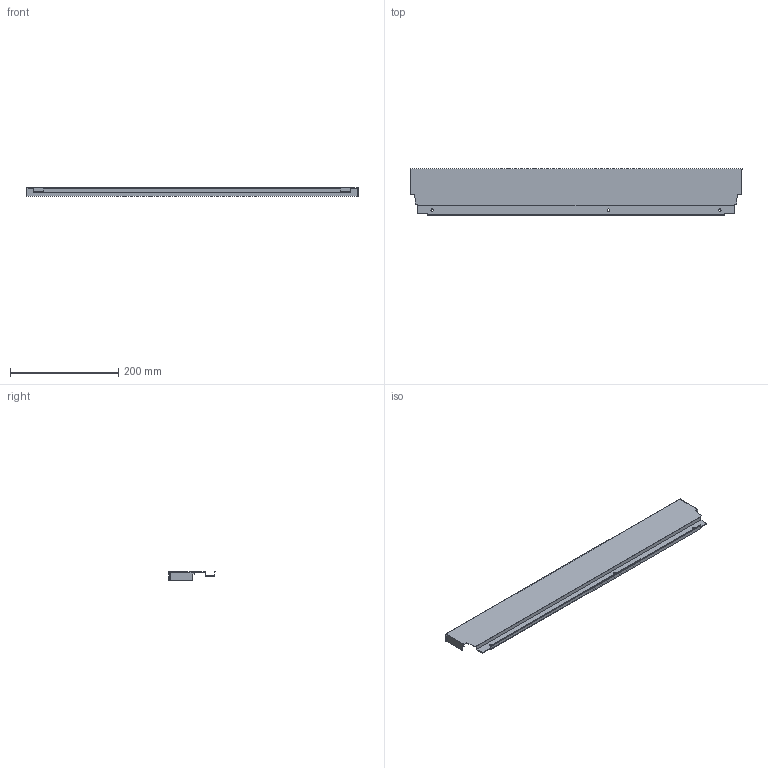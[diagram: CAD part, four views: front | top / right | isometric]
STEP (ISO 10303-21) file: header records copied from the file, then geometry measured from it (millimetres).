
FILE_DESCRIPTION (( 'STEP AP214' ), '1' );
FILE_NAME ('_DWD_XP Stahlrückwand_H86_KAB700_S19.step', '2010-07-08T12:10:36', ( 'grass' ), ( '' ), 'SwSTEP 2.0', 'SolidWorks 2010', '' );
FILE_SCHEMA (( 'AUTOMOTIVE_DESIGN' ));
Length unit declared in the file: millimetre
Products named in the file (1): _DWD_XP Stahlrückwand_H86_KAB700_S19
Bounding box: 613 x 85.79 x 16 mm (x, y, z)
Volume: 65434.2 mm3; surface area: 142401 mm2
Topology: 1 solids, 1 shells, 50 faces, 144 edges, 96 vertices
Faces by surface type: plane 44, cylinder 6
Entity records: 1666 total; most frequent: CARTESIAN_POINT 291, ORIENTED_EDGE 288, DIRECTION 258, EDGE_CURVE 144, VECTOR 132, LINE 132, VERTEX_POINT 96, AXIS2_PLACEMENT_3D 63
